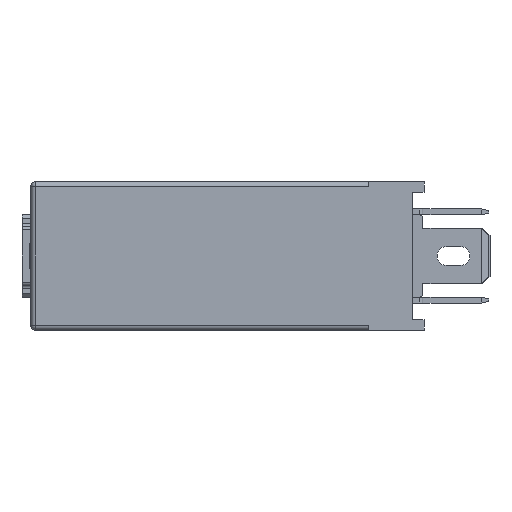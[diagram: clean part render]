
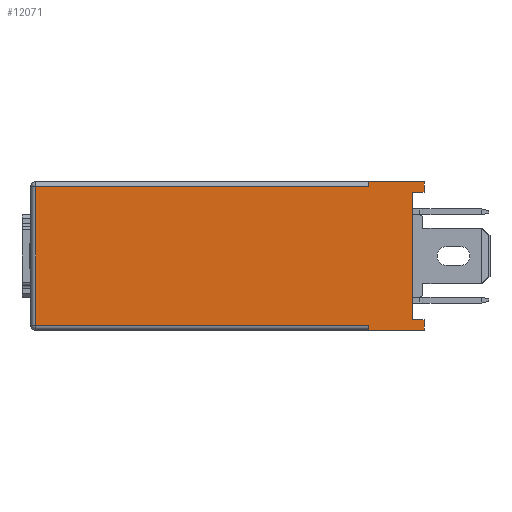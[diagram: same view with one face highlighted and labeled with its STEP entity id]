
A CAD part, left-side view. The second image highlights one B-rep face of the part: STEP entity #12071.
In plain terms, the highlighted planar face has unit normal (-1, 0, 0).
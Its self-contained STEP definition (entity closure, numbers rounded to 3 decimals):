
#88 = EDGE_CURVE ( 'NONE', #4775, #2445, #8620, .T. ) ;
#382 = ORIENTED_EDGE ( 'NONE', *, *, #14865, .F. ) ;
#437 = EDGE_CURVE ( 'NONE', #16601, #9990, #7585, .T. ) ;
#545 = CARTESIAN_POINT ( 'NONE',  ( -14.4, 27.2, -5.9 ) ) ;
#835 = ORIENTED_EDGE ( 'NONE', *, *, #437, .T. ) ;
#1234 = VERTEX_POINT ( 'NONE', #7781 ) ;
#1356 = VECTOR ( 'NONE', #4893, 1000. ) ;
#1654 = CARTESIAN_POINT ( 'NONE',  ( -14.4, -1., 5.4 ) ) ;
#1667 = CARTESIAN_POINT ( 'NONE',  ( -14.4, -1., -6.3 ) ) ;
#1908 = EDGE_CURVE ( 'NONE', #14279, #14060, #10669, .T. ) ;
#2004 = DIRECTION ( 'NONE',  ( 0., 0., -1. ) ) ;
#2137 = LINE ( 'NONE', #1667, #5745 ) ;
#2279 = EDGE_CURVE ( 'NONE', #2445, #4430, #5164, .T. ) ;
#2297 = ORIENTED_EDGE ( 'NONE', *, *, #16551, .T. ) ;
#2444 = ORIENTED_EDGE ( 'NONE', *, *, #5075, .F. ) ;
#2445 = VERTEX_POINT ( 'NONE', #13620 ) ;
#2450 = VECTOR ( 'NONE', #13548, 1000. ) ;
#2472 = CARTESIAN_POINT ( 'NONE',  ( -14.4, 32., 5.9 ) ) ;
#2609 = VERTEX_POINT ( 'NONE', #9052 ) ;
#2639 = EDGE_LOOP ( 'NONE', ( #2297, #2444, #9008, #5496, #15839, #13640, #382, #9318, #835, #9144, #10242, #12556 ) ) ;
#3265 = DIRECTION ( 'NONE',  ( 0., -1., 0. ) ) ;
#3352 = CARTESIAN_POINT ( 'NONE',  ( -14.4, 0., -6.3 ) ) ;
#3402 = CARTESIAN_POINT ( 'NONE',  ( -14.4, 0., 6.3 ) ) ;
#3463 = CARTESIAN_POINT ( 'NONE',  ( -14.4, 3.7, 5.9 ) ) ;
#3488 = VECTOR ( 'NONE', #10688, 1000. ) ;
#3590 = CARTESIAN_POINT ( 'NONE',  ( -14.4, 3.7, 6.3 ) ) ;
#3617 = EDGE_CURVE ( 'NONE', #8558, #14060, #16156, .T. ) ;
#3718 = CARTESIAN_POINT ( 'NONE',  ( -14.4, 3.7, 6.3 ) ) ;
#3985 = VERTEX_POINT ( 'NONE', #15672 ) ;
#4297 = CARTESIAN_POINT ( 'NONE',  ( -14.4, 0., -5.4 ) ) ;
#4430 = VERTEX_POINT ( 'NONE', #16915 ) ;
#4649 = VECTOR ( 'NONE', #10748, 1000. ) ;
#4767 = PLANE ( 'NONE',  #6085 ) ;
#4775 = VERTEX_POINT ( 'NONE', #12309 ) ;
#4893 = DIRECTION ( 'NONE',  ( 0., 0., -1. ) ) ;
#4981 = LINE ( 'NONE', #12921, #1356 ) ;
#5041 = VECTOR ( 'NONE', #3265, 1000. ) ;
#5075 = EDGE_CURVE ( 'NONE', #14279, #3985, #2137, .T. ) ;
#5164 = LINE ( 'NONE', #3590, #11915 ) ;
#5255 = CARTESIAN_POINT ( 'NONE',  ( -14.4, -1., -5.4 ) ) ;
#5489 = LINE ( 'NONE', #9372, #4649 ) ;
#5496 = ORIENTED_EDGE ( 'NONE', *, *, #3617, .F. ) ;
#5502 = EDGE_CURVE ( 'NONE', #15852, #8558, #6172, .T. ) ;
#5745 = VECTOR ( 'NONE', #16759, 1000. ) ;
#6085 = AXIS2_PLACEMENT_3D ( 'NONE', #3402, #10133, #6146 ) ;
#6146 = DIRECTION ( 'NONE',  ( 0., 0., 1. ) ) ;
#6172 = LINE ( 'NONE', #1654, #13320 ) ;
#6266 = EDGE_CURVE ( 'NONE', #9990, #4775, #4981, .T. ) ;
#7385 = FACE_OUTER_BOUND ( 'NONE', #2639, .T. ) ;
#7585 = LINE ( 'NONE', #11407, #14338 ) ;
#7781 = CARTESIAN_POINT ( 'NONE',  ( -14.4, 3.7, 6.3 ) ) ;
#8480 = CARTESIAN_POINT ( 'NONE',  ( -14.4, 0., 5.4 ) ) ;
#8558 = VERTEX_POINT ( 'NONE', #8480 ) ;
#8561 = CARTESIAN_POINT ( 'NONE',  ( -14.4, -1., 5.4 ) ) ;
#8620 = LINE ( 'NONE', #545, #5041 ) ;
#9008 = ORIENTED_EDGE ( 'NONE', *, *, #1908, .T. ) ;
#9052 = CARTESIAN_POINT ( 'NONE',  ( -14.4, -1., 6.3 ) ) ;
#9144 = ORIENTED_EDGE ( 'NONE', *, *, #6266, .T. ) ;
#9318 = ORIENTED_EDGE ( 'NONE', *, *, #9949, .T. ) ;
#9372 = CARTESIAN_POINT ( 'NONE',  ( -14.4, -1., 6.3 ) ) ;
#9742 = DIRECTION ( 'NONE',  ( 0., 1., 0. ) ) ;
#9949 = EDGE_CURVE ( 'NONE', #1234, #16601, #16539, .T. ) ;
#9990 = VERTEX_POINT ( 'NONE', #2472 ) ;
#10066 = LINE ( 'NONE', #12196, #2450 ) ;
#10133 = DIRECTION ( 'NONE',  ( 1., 0., 0. ) ) ;
#10242 = ORIENTED_EDGE ( 'NONE', *, *, #88, .T. ) ;
#10669 = LINE ( 'NONE', #5255, #3488 ) ;
#10688 = DIRECTION ( 'NONE',  ( 0., 1., 0. ) ) ;
#10748 = DIRECTION ( 'NONE',  ( 0., 0., -1. ) ) ;
#11108 = EDGE_CURVE ( 'NONE', #2609, #15852, #5489, .T. ) ;
#11407 = CARTESIAN_POINT ( 'NONE',  ( -14.4, 27.2, 5.9 ) ) ;
#11520 = CARTESIAN_POINT ( 'NONE',  ( -14.4, -1., -5.4 ) ) ;
#11915 = VECTOR ( 'NONE', #14301, 1000. ) ;
#12071 = ADVANCED_FACE ( 'NONE', ( #7385 ), #4767, .F. ) ;
#12196 = CARTESIAN_POINT ( 'NONE',  ( -14.4, 0., 6.3 ) ) ;
#12309 = CARTESIAN_POINT ( 'NONE',  ( -14.4, 32., -5.9 ) ) ;
#12556 = ORIENTED_EDGE ( 'NONE', *, *, #2279, .T. ) ;
#12759 = DIRECTION ( 'NONE',  ( 0., 1., 0. ) ) ;
#12802 = DIRECTION ( 'NONE',  ( 0., -1., 0. ) ) ;
#12921 = CARTESIAN_POINT ( 'NONE',  ( -14.4, 32., -5.9 ) ) ;
#13177 = DIRECTION ( 'NONE',  ( 0., 0., -1. ) ) ;
#13320 = VECTOR ( 'NONE', #9742, 1000. ) ;
#13340 = VECTOR ( 'NONE', #13177, 1000. ) ;
#13548 = DIRECTION ( 'NONE',  ( 0., -1., 0. ) ) ;
#13620 = CARTESIAN_POINT ( 'NONE',  ( -14.4, 3.7, -5.9 ) ) ;
#13640 = ORIENTED_EDGE ( 'NONE', *, *, #11108, .F. ) ;
#14060 = VERTEX_POINT ( 'NONE', #4297 ) ;
#14279 = VERTEX_POINT ( 'NONE', #11520 ) ;
#14301 = DIRECTION ( 'NONE',  ( 0., 0., -1. ) ) ;
#14338 = VECTOR ( 'NONE', #12759, 1000. ) ;
#14865 = EDGE_CURVE ( 'NONE', #1234, #2609, #10066, .T. ) ;
#15497 = CARTESIAN_POINT ( 'NONE',  ( -14.4, 0., 6.3 ) ) ;
#15672 = CARTESIAN_POINT ( 'NONE',  ( -14.4, -1., -6.3 ) ) ;
#15747 = VECTOR ( 'NONE', #2004, 1000. ) ;
#15839 = ORIENTED_EDGE ( 'NONE', *, *, #5502, .F. ) ;
#15852 = VERTEX_POINT ( 'NONE', #8561 ) ;
#16156 = LINE ( 'NONE', #15497, #15747 ) ;
#16539 = LINE ( 'NONE', #3718, #13340 ) ;
#16551 = EDGE_CURVE ( 'NONE', #4430, #3985, #17081, .T. ) ;
#16601 = VERTEX_POINT ( 'NONE', #3463 ) ;
#16645 = VECTOR ( 'NONE', #12802, 1000. ) ;
#16759 = DIRECTION ( 'NONE',  ( 0., 0., -1. ) ) ;
#16915 = CARTESIAN_POINT ( 'NONE',  ( -14.4, 3.7, -6.3 ) ) ;
#17081 = LINE ( 'NONE', #3352, #16645 ) ;
